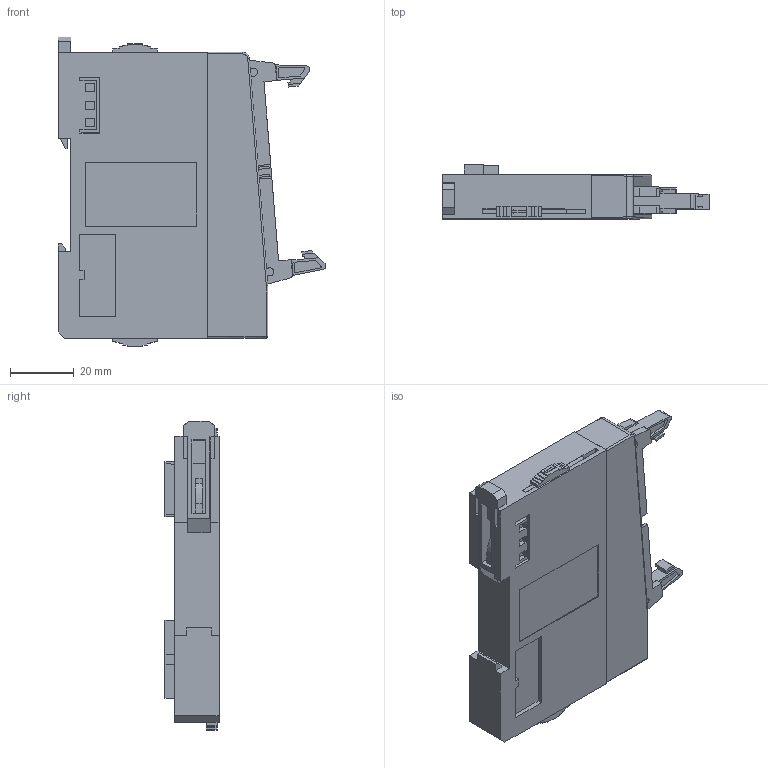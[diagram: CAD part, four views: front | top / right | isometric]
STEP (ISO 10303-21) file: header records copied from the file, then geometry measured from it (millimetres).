
FILE_DESCRIPTION(/* description */ (''),/* implementation_level */ '2;1');
FILE_NAME(/* name */ 'EX-32点模块.stp',/* time_stamp */ '2022-01-17T09:30:40+08:00',/* author */ (''),/* organization */ (''),/* preprocessor_version */ 'ST-DEVELOPER v16',/* originating_system */ 'SIEMENS PLM Software NX 10.0',/* authorisation */ '');
FILE_SCHEMA (('AP203_CONFIGURATION_CONTROLLED_3D_DESIGN_OF_MECHANICAL_PARTS_AND_ASSEMBLIES_MIM_LF { 1 0 10303 403 2 1 2}'));
Length unit declared in the file: millimetre
Products named in the file (1): 73494B50E7E6tyjb
Bounding box: 84.27 x 17 x 97.45 mm (x, y, z)
Volume: 77355.5 mm3; surface area: 29858.5 mm2
Topology: 6 solids, 6 shells, 1641 faces, 4119 edges, 2582 vertices
Faces by surface type: plane 1480, cylinder 87, cone 69, sphere 3, torus 2
Full cylindrical faces by diameter (mm): 2.5 x16
Entity records: 47731 total; most frequent: CARTESIAN_POINT 8362, ORIENTED_EDGE 8202, DIRECTION 7703, EDGE_CURVE 4101, LINE 3763, VECTOR 3763, VERTEX_POINT 2581, AXIS2_PLACEMENT_3D 1970
